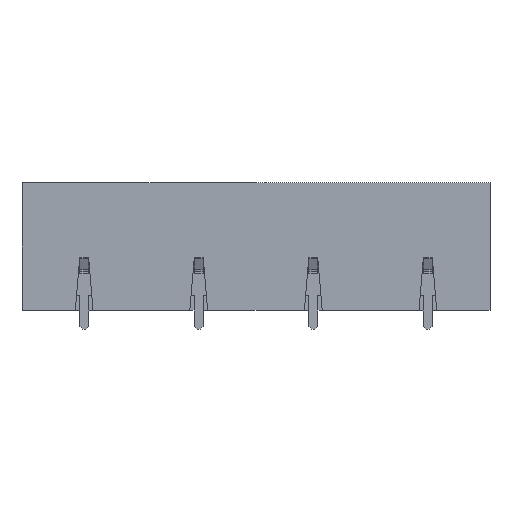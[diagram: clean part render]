
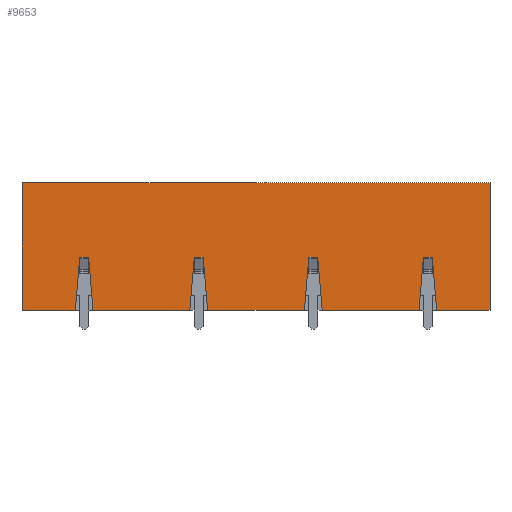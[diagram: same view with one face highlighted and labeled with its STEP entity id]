
A CAD part, left-side view. The second image highlights one B-rep face of the part: STEP entity #9653.
In plain terms, the highlighted planar face has unit normal (-1, 0, 0).
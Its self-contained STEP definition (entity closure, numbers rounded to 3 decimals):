
#4548 = VERTEX_POINT('',#4549);
#4549 = CARTESIAN_POINT('',(-38.99,39.42,0.));
#4557 = EDGE_CURVE('',#4548,#4558,#4560,.T.);
#4558 = VERTEX_POINT('',#4559);
#4559 = CARTESIAN_POINT('',(-38.99,39.42,21.54));
#4560 = LINE('',#4561,#4562);
#4561 = CARTESIAN_POINT('',(-38.99,39.42,0.));
#4562 = VECTOR('',#4563,1.);
#4563 = DIRECTION('',(0.,0.,1.));
#4865 = VERTEX_POINT('',#4866);
#4866 = CARTESIAN_POINT('',(-38.99,-39.42,21.54));
#4872 = EDGE_CURVE('',#4873,#4865,#4875,.T.);
#4873 = VERTEX_POINT('',#4874);
#4874 = CARTESIAN_POINT('',(-38.99,-39.42,0.));
#4875 = LINE('',#4876,#4877);
#4876 = CARTESIAN_POINT('',(-38.99,-39.42,0.));
#4877 = VECTOR('',#4878,1.);
#4878 = DIRECTION('',(0.,0.,1.));
#4950 = EDGE_CURVE('',#4951,#4953,#4955,.T.);
#4951 = VERTEX_POINT('',#4952);
#4952 = CARTESIAN_POINT('',(-38.99,10.4,9.));
#4953 = VERTEX_POINT('',#4954);
#4954 = CARTESIAN_POINT('',(-38.99,11.15,0.));
#4955 = LINE('',#4956,#4957);
#4956 = CARTESIAN_POINT('',(-38.99,10.4,9.));
#4957 = VECTOR('',#4958,1.);
#4958 = DIRECTION('',(-0.,0.083,-0.997));
#5038 = EDGE_CURVE('',#5039,#5041,#5043,.T.);
#5039 = VERTEX_POINT('',#5040);
#5040 = CARTESIAN_POINT('',(-38.99,8.15,0.));
#5041 = VERTEX_POINT('',#5042);
#5042 = CARTESIAN_POINT('',(-38.99,8.9,9.));
#5043 = LINE('',#5044,#5045);
#5044 = CARTESIAN_POINT('',(-38.99,8.15,0.));
#5045 = VECTOR('',#5046,1.);
#5046 = DIRECTION('',(0.,0.083,0.997));
#5897 = EDGE_CURVE('',#5898,#5900,#5902,.T.);
#5898 = VERTEX_POINT('',#5899);
#5899 = CARTESIAN_POINT('',(-38.99,29.7,9.));
#5900 = VERTEX_POINT('',#5901);
#5901 = CARTESIAN_POINT('',(-38.99,30.45,0.));
#5902 = LINE('',#5903,#5904);
#5903 = CARTESIAN_POINT('',(-38.99,29.7,9.));
#5904 = VECTOR('',#5905,1.);
#5905 = DIRECTION('',(-0.,0.083,-0.997));
#5937 = EDGE_CURVE('',#5938,#5898,#5940,.T.);
#5938 = VERTEX_POINT('',#5939);
#5939 = CARTESIAN_POINT('',(-38.99,28.2,9.));
#5940 = LINE('',#5941,#5942);
#5941 = CARTESIAN_POINT('',(-38.99,28.2,9.));
#5942 = VECTOR('',#5943,1.);
#5943 = DIRECTION('',(0.,1.,0.));
#5961 = EDGE_CURVE('',#5962,#5938,#5964,.T.);
#5962 = VERTEX_POINT('',#5963);
#5963 = CARTESIAN_POINT('',(-38.99,27.45,0.));
#5964 = LINE('',#5965,#5966);
#5965 = CARTESIAN_POINT('',(-38.99,27.45,0.));
#5966 = VECTOR('',#5967,1.);
#5967 = DIRECTION('',(0.,0.083,0.997));
#6089 = EDGE_CURVE('',#5041,#4951,#6090,.T.);
#6090 = LINE('',#6091,#6092);
#6091 = CARTESIAN_POINT('',(-38.99,8.9,9.));
#6092 = VECTOR('',#6093,1.);
#6093 = DIRECTION('',(0.,1.,0.));
#6218 = EDGE_CURVE('',#6219,#6221,#6223,.T.);
#6219 = VERTEX_POINT('',#6220);
#6220 = CARTESIAN_POINT('',(-38.99,-8.9,9.));
#6221 = VERTEX_POINT('',#6222);
#6222 = CARTESIAN_POINT('',(-38.99,-8.15,0.));
#6223 = LINE('',#6224,#6225);
#6224 = CARTESIAN_POINT('',(-38.99,-8.9,9.));
#6225 = VECTOR('',#6226,1.);
#6226 = DIRECTION('',(-0.,0.083,-0.997));
#6258 = EDGE_CURVE('',#6259,#6219,#6261,.T.);
#6259 = VERTEX_POINT('',#6260);
#6260 = CARTESIAN_POINT('',(-38.99,-10.4,9.));
#6261 = LINE('',#6262,#6263);
#6262 = CARTESIAN_POINT('',(-38.99,-10.4,9.));
#6263 = VECTOR('',#6264,1.);
#6264 = DIRECTION('',(0.,1.,0.));
#6282 = EDGE_CURVE('',#6283,#6259,#6285,.T.);
#6283 = VERTEX_POINT('',#6284);
#6284 = CARTESIAN_POINT('',(-38.99,-11.15,0.));
#6285 = LINE('',#6286,#6287);
#6286 = CARTESIAN_POINT('',(-38.99,-11.15,0.));
#6287 = VECTOR('',#6288,1.);
#6288 = DIRECTION('',(0.,0.083,0.997));
#6494 = EDGE_CURVE('',#6495,#6497,#6499,.T.);
#6495 = VERTEX_POINT('',#6496);
#6496 = CARTESIAN_POINT('',(-38.99,-28.2,9.));
#6497 = VERTEX_POINT('',#6498);
#6498 = CARTESIAN_POINT('',(-38.99,-27.45,0.));
#6499 = LINE('',#6500,#6501);
#6500 = CARTESIAN_POINT('',(-38.99,-28.2,9.));
#6501 = VECTOR('',#6502,1.);
#6502 = DIRECTION('',(-0.,0.083,-0.997));
#6534 = EDGE_CURVE('',#6535,#6495,#6537,.T.);
#6535 = VERTEX_POINT('',#6536);
#6536 = CARTESIAN_POINT('',(-38.99,-29.7,9.));
#6537 = LINE('',#6538,#6539);
#6538 = CARTESIAN_POINT('',(-38.99,-29.7,9.));
#6539 = VECTOR('',#6540,1.);
#6540 = DIRECTION('',(0.,1.,0.));
#6558 = EDGE_CURVE('',#6559,#6535,#6561,.T.);
#6559 = VERTEX_POINT('',#6560);
#6560 = CARTESIAN_POINT('',(-38.99,-30.45,0.));
#6561 = LINE('',#6562,#6563);
#6562 = CARTESIAN_POINT('',(-38.99,-30.45,0.));
#6563 = VECTOR('',#6564,1.);
#6564 = DIRECTION('',(0.,0.083,0.997));
#6689 = EDGE_CURVE('',#4865,#4558,#6690,.T.);
#6690 = LINE('',#6691,#6692);
#6691 = CARTESIAN_POINT('',(-38.99,-39.42,21.54));
#6692 = VECTOR('',#6693,1.);
#6693 = DIRECTION('',(0.,1.,0.));
#7760 = EDGE_CURVE('',#4873,#6559,#7761,.T.);
#7761 = LINE('',#7762,#7763);
#7762 = CARTESIAN_POINT('',(-38.99,-39.42,0.));
#7763 = VECTOR('',#7764,1.);
#7764 = DIRECTION('',(0.,1.,0.));
#7769 = EDGE_CURVE('',#6497,#6283,#7770,.T.);
#7770 = LINE('',#7771,#7772);
#7771 = CARTESIAN_POINT('',(-38.99,-39.42,0.));
#7772 = VECTOR('',#7773,1.);
#7773 = DIRECTION('',(0.,1.,0.));
#7783 = EDGE_CURVE('',#6221,#5039,#7784,.T.);
#7784 = LINE('',#7785,#7786);
#7785 = CARTESIAN_POINT('',(-38.99,-39.42,0.));
#7786 = VECTOR('',#7787,1.);
#7787 = DIRECTION('',(0.,1.,0.));
#7792 = EDGE_CURVE('',#4953,#5962,#7793,.T.);
#7793 = LINE('',#7794,#7795);
#7794 = CARTESIAN_POINT('',(-38.99,-39.42,0.));
#7795 = VECTOR('',#7796,1.);
#7796 = DIRECTION('',(0.,1.,0.));
#7806 = EDGE_CURVE('',#5900,#4548,#7807,.T.);
#7807 = LINE('',#7808,#7809);
#7808 = CARTESIAN_POINT('',(-38.99,-39.42,0.));
#7809 = VECTOR('',#7810,1.);
#7810 = DIRECTION('',(0.,1.,0.));
#9653 = ADVANCED_FACE('',(#9654),#9676,.T.);
#9654 = FACE_BOUND('',#9655,.T.);
#9655 = EDGE_LOOP('',(#9656,#9657,#9658,#9659,#9660,#9661,#9662,#9663,
    #9664,#9665,#9666,#9667,#9668,#9669,#9670,#9671,#9672,#9673,#9674,
    #9675));
#9656 = ORIENTED_EDGE('',*,*,#7760,.F.);
#9657 = ORIENTED_EDGE('',*,*,#4872,.T.);
#9658 = ORIENTED_EDGE('',*,*,#6689,.T.);
#9659 = ORIENTED_EDGE('',*,*,#4557,.F.);
#9660 = ORIENTED_EDGE('',*,*,#7806,.F.);
#9661 = ORIENTED_EDGE('',*,*,#5897,.F.);
#9662 = ORIENTED_EDGE('',*,*,#5937,.F.);
#9663 = ORIENTED_EDGE('',*,*,#5961,.F.);
#9664 = ORIENTED_EDGE('',*,*,#7792,.F.);
#9665 = ORIENTED_EDGE('',*,*,#4950,.F.);
#9666 = ORIENTED_EDGE('',*,*,#6089,.F.);
#9667 = ORIENTED_EDGE('',*,*,#5038,.F.);
#9668 = ORIENTED_EDGE('',*,*,#7783,.F.);
#9669 = ORIENTED_EDGE('',*,*,#6218,.F.);
#9670 = ORIENTED_EDGE('',*,*,#6258,.F.);
#9671 = ORIENTED_EDGE('',*,*,#6282,.F.);
#9672 = ORIENTED_EDGE('',*,*,#7769,.F.);
#9673 = ORIENTED_EDGE('',*,*,#6494,.F.);
#9674 = ORIENTED_EDGE('',*,*,#6534,.F.);
#9675 = ORIENTED_EDGE('',*,*,#6558,.F.);
#9676 = PLANE('',#9677);
#9677 = AXIS2_PLACEMENT_3D('',#9678,#9679,#9680);
#9678 = CARTESIAN_POINT('',(-38.99,-39.42,0.));
#9679 = DIRECTION('',(-1.,0.,0.));
#9680 = DIRECTION('',(0.,1.,0.));
